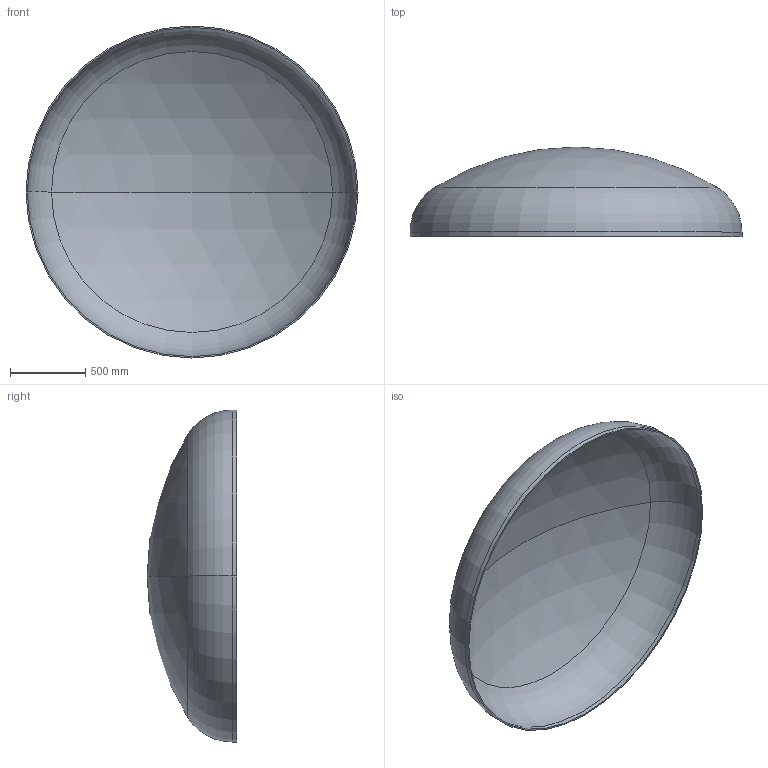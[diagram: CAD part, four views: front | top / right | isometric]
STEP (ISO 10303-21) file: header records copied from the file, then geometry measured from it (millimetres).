
FILE_DESCRIPTION (( 'STEP AP203' ), '1' );
FILE_NAME ('DIN 28013 Korbbogenform_-_Boden DIN 28013 - 2200 x 30 - I - s=9.step', '2016-07-01T14:17:49', ( '' ), ( '' ), 'SwSTEP 2.0', 'SolidWorks 2013', '' );
FILE_SCHEMA (( 'CONFIG_CONTROL_DESIGN' ));
Length unit declared in the file: millimetre
Products named in the file (1): DIN 28013 Korbbogenform_-_Boden DIN 28013 - 2200 x 30 - I - s=9
Bounding box: 2200 x 593.84 x 2200 mm (x, y, z)
Volume: 49020778.1 mm3; surface area: 10955620.6 mm2
Topology: 1 solids, 1 shells, 13 faces, 24 edges, 14 vertices
Faces by surface type: torus 4, cylinder 4, sphere 4, plane 1
Entity records: 407 total; most frequent: DIRECTION 72, CARTESIAN_POINT 52, ORIENTED_EDGE 48, AXIS2_PLACEMENT_3D 34, EDGE_CURVE 24, CIRCLE 20, EDGE_LOOP 14, VERTEX_POINT 14
